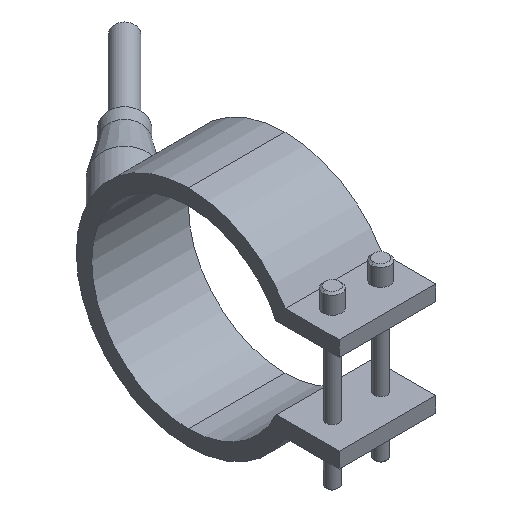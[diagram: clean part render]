
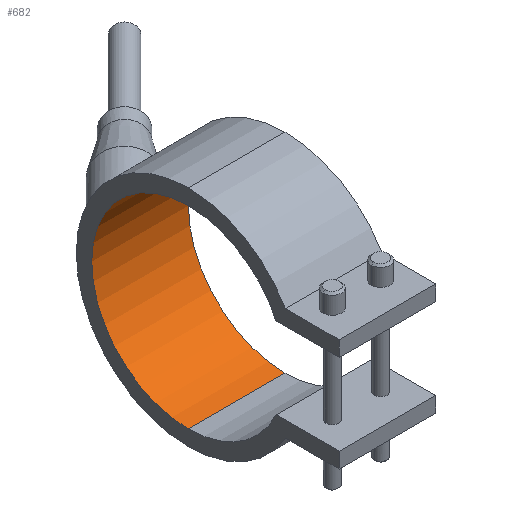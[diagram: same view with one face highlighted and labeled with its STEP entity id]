
A CAD part, isometric view. The second image highlights one B-rep face of the part: STEP entity #682.
In plain terms, the highlighted cylindrical face has radius 25 mm (diameter 50 mm), a partial arc.
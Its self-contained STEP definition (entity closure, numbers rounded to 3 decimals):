
#352=CARTESIAN_POINT('Vertex',(12.5,0.,25.)) ;
#357=CARTESIAN_POINT('Axis2P3D Location',(12.5,0.,0.)) ;
#361=CARTESIAN_POINT('Vertex',(12.5,0.,-25.)) ;
#468=CARTESIAN_POINT('Vertex',(-12.5,0.,-25.)) ;
#471=CARTESIAN_POINT('Axis2P3D Location',(-12.5,0.,0.)) ;
#475=CARTESIAN_POINT('Vertex',(-12.5,0.,25.)) ;
#654=CARTESIAN_POINT('Line Origine',(12.5,0.,25.)) ;
#666=CARTESIAN_POINT('Axis2P3D Location',(12.5,0.,0.)) ;
#671=CARTESIAN_POINT('Line Origine',(12.5,0.,-25.)) ;
#358=DIRECTION('Axis2P3D Direction',(1.,0.,0.)) ;
#472=DIRECTION('Axis2P3D Direction',(1.,0.,0.)) ;
#655=DIRECTION('Vector Direction',(1.,0.,0.)) ;
#667=DIRECTION('Axis2P3D Direction',(1.,0.,-0.)) ;
#668=DIRECTION('Axis2P3D XDirection',(0.,0.,-1.)) ;
#672=DIRECTION('Vector Direction',(1.,0.,0.)) ;
#359=AXIS2_PLACEMENT_3D('Circle Axis2P3D',#357,#358,$) ;
#473=AXIS2_PLACEMENT_3D('Circle Axis2P3D',#471,#472,$) ;
#669=AXIS2_PLACEMENT_3D('Cylinder Axis2P3D',#666,#667,#668) ;
#677=ORIENTED_EDGE('',*,*,#363,.T.) ;
#678=ORIENTED_EDGE('',*,*,#658,.T.) ;
#679=ORIENTED_EDGE('',*,*,#477,.F.) ;
#680=ORIENTED_EDGE('',*,*,#675,.T.) ;
#656=VECTOR('Line Direction',#655,1.) ;
#673=VECTOR('Line Direction',#672,1.) ;
#682=ADVANCED_FACE('29050025',(#681),#670,.F.) ;
#360=CIRCLE('generated circle',#359,25.) ;
#474=CIRCLE('generated circle',#473,25.) ;
#670=CYLINDRICAL_SURFACE('generated cylinder',#669,25.) ;
#363=EDGE_CURVE('',#362,#353,#360,.T.) ;
#477=EDGE_CURVE('',#469,#476,#474,.T.) ;
#658=EDGE_CURVE('',#353,#476,#657,.F.) ;
#675=EDGE_CURVE('',#469,#362,#674,.T.) ;
#676=EDGE_LOOP('',(#677,#678,#679,#680)) ;
#681=FACE_OUTER_BOUND('',#676,.T.) ;
#657=LINE('Line',#654,#656) ;
#674=LINE('Line',#671,#673) ;
#353=VERTEX_POINT('',#352) ;
#362=VERTEX_POINT('',#361) ;
#469=VERTEX_POINT('',#468) ;
#476=VERTEX_POINT('',#475) ;
